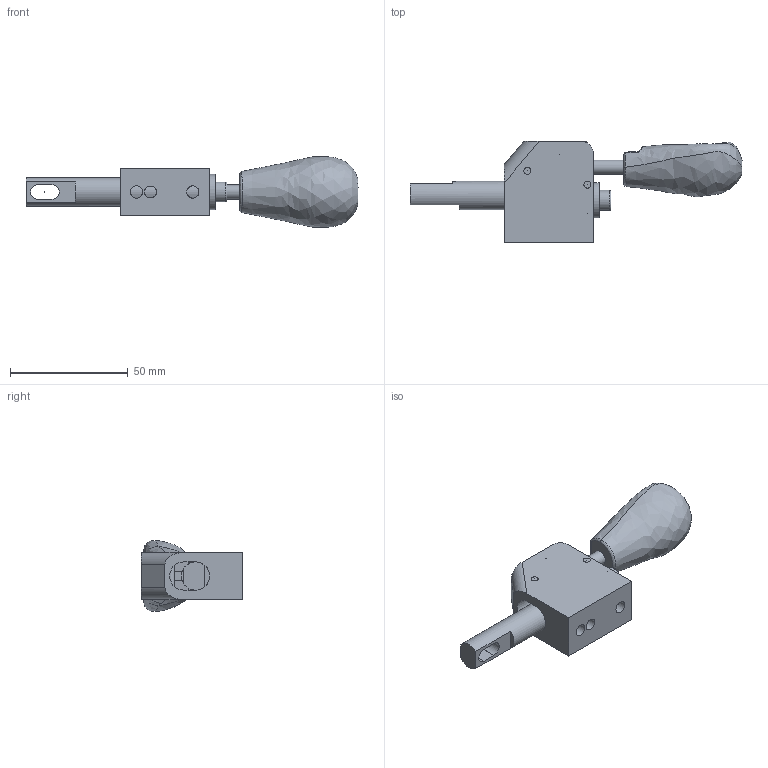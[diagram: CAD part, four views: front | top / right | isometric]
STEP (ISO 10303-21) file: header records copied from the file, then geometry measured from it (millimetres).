
FILE_DESCRIPTION(/* description */ (''),/* implementation_level */ '2;1');
FILE_NAME(/* name */ '\\192.168.1.150\pc03\Inventor\デュアルメカニズムクランプ最終\2017.10月　最新型\SUD-20ST\SUD-20ST-CLAMP.stp',/* time_stamp */ '2024-05-14T16:51:09+09:00',/* author */ ('Backup'),/* organization */ (''),/* preprocessor_version */ 'ST-DEVELOPER v17',/* originating_system */ 'Autodesk Inventor 2019',/* authorisation */ '');
FILE_SCHEMA (('AUTOMOTIVE_DESIGN { 1 0 10303 214 3 1 1 }'));
Length unit declared in the file: millimetre
Products named in the file (9): SUD-20ST-CLAMP; ボディー; 50-30_VER4_PG2__12; SB止め板; Φ8×40ｼｬﾌﾄ; カム; スライドバー; AS 1420 - 1973 - M5 x 14; ピン　３×20
Assembly tree (9 placements, depth 2):
  SUD-20ST-CLAMP
    ボディー
    50-30_VER4_PG2__12
    SB止め板
    Φ8×40ｼｬﾌﾄ
    カム
    スライドバー
    ピン　３×20  x2
    AS 1420 - 1973 - M5 x 14
Bounding box: 141.25 x 43 x 30.18 mm (x, y, z)
Volume: 50617.8 mm3; surface area: 21319.3 mm2
Topology: 10 solids, 10 shells, 229 faces, 618 edges, 413 vertices
Faces by surface type: plane 110, cylinder 84, bspline 24, cone 5, sphere 4, torus 2
Full cylindrical faces by diameter (mm): 0.01 x13, 0.1 x1, 1.306 x1, 3 x2, 3.2 x3, 5 x2, 5.1 x1, 5.2 x3, 6 x3, 8.5 x1, 12 x1, 15 x1
Entity records: 17690 total; most frequent: CARTESIAN_POINT 11636, ORIENTED_EDGE 1220, DIRECTION 1162, EDGE_CURVE 610, AXIS2_PLACEMENT_3D 422, VERTEX_POINT 411, LINE 318, VECTOR 318
